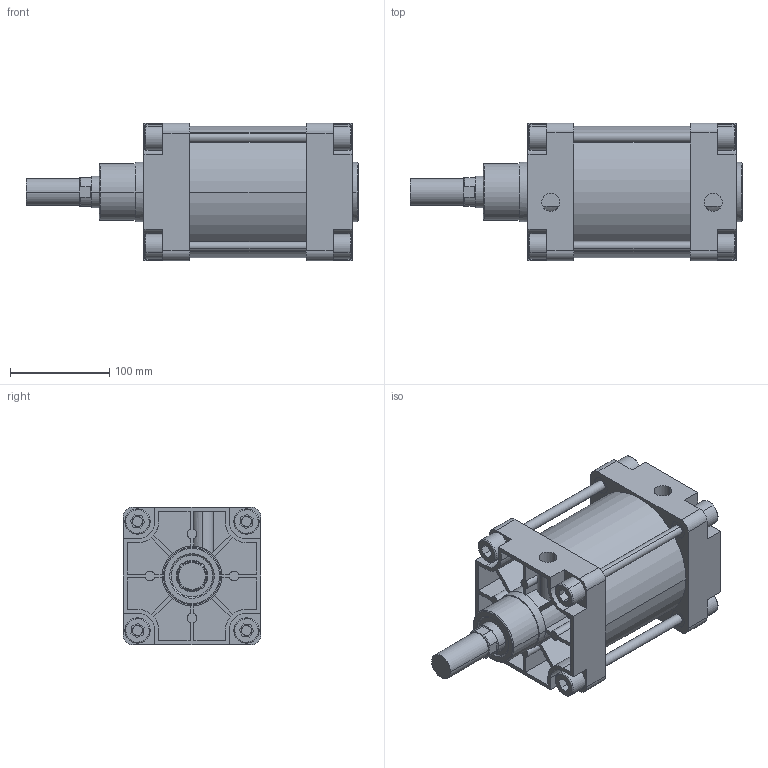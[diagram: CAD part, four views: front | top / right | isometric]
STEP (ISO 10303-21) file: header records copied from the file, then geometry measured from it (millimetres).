
FILE_DESCRIPTION(('CATIA V5 STEP Exchange'),'2;1');
FILE_NAME('D:\stp file for catalog\PNC\125\PNC 125-32-50.stp','2015-10-13T13:24:55+00:00',('none'),('none'),'Version 5-6 Release 2012','CATIA V5 STEP AP203','none');
FILE_SCHEMA(('CONFIG_CONTROL_DESIGN'));
Length unit declared in the file: millimetre
Products named in the file (1): PNC 125-32-50-00
Assembly tree (2 placements, depth 2):
  PNC 125-32-50-00
    #58
    #14773
Bounding box: 335 x 139 x 139 mm (x, y, z)
Volume: 2380263.8 mm3; surface area: 424906.7 mm2
Topology: 7 solids, 11 shells, 557 faces, 1420 edges, 938 vertices
Faces by surface type: plane 337, cylinder 174, torus 24, extrusion 16, cone 6
Entity records: 15682 total; most frequent: CARTESIAN_POINT 3254, ORIENTED_EDGE 2840, DIRECTION 1937, EDGE_CURVE 1420, VERTEX_POINT 938, VECTOR 903, LINE 887, AXIS2_PLACEMENT_3D 735
